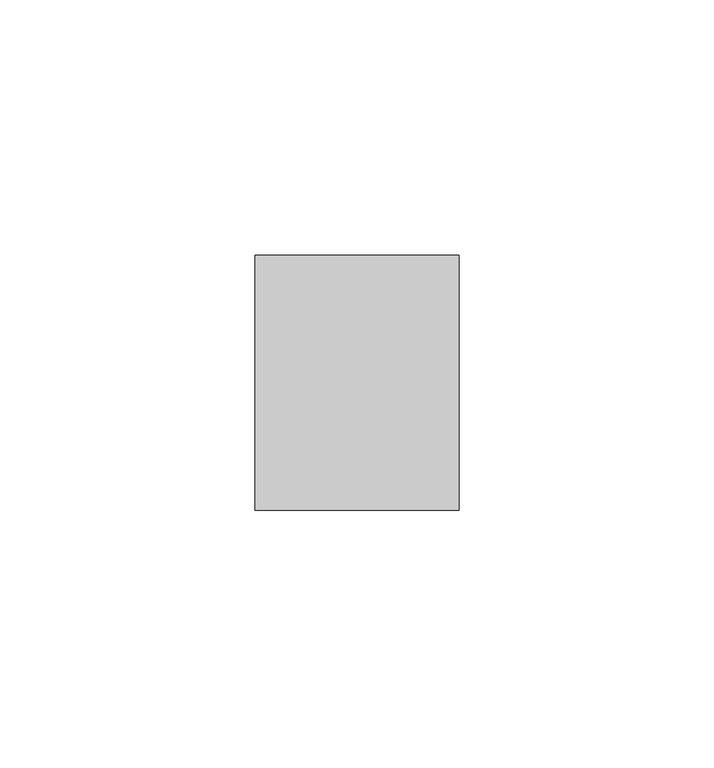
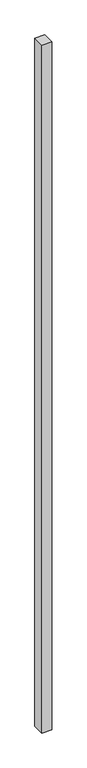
"""IFC4 building model written with IfcOpenShell, lengths in millimetres: member geometry, Прямоугольный импост : 40х50."""

from ifc_helpers import new_model, si_unit, frame, origin, place, context, project, spatial, polyline, outline, extrude, source, transform, mapped, element, save


def member_f79c86ad(model_context):
    return source(origin(), model_context, "Body", "SweptSolid", [
        extrude(outline(polyline([(20.0, 50.0), (20.0, 0.0), (-20.0, 0.0), (-20.0, 50.0), (20.0, 50.0)])), frame((0.0, 0.0, -3000.0), z_axis=(0.0, 0.0, 1.0), x_axis=(1.0, 0.0, 0.0)), (0.0, 0.0, 1.0), 3000.0),
    ])


if __name__ == "__main__":
    model = new_model("IFC4")
    model_context = context("Model", 3, world=origin())
    ifc_project = project(units=[si_unit("LENGTHUNIT", "METRE", prefix="MILLI")], contexts=[model_context])
    site = spatial("IfcSite", under=ifc_project)
    building = spatial("IfcBuilding", under=site)
    placement = place(None, origin())
    member_shape = member_f79c86ad(model_context)
    element("IfcMember", 1, ObjectType="Прямоугольный импост : 40х50", at=placement, inside=building, context=model_context, shape_type="MappedRepresentation", body=[
        mapped(member_shape, transform((0.0, 0.0, 0.0), x_axis=(1.0, 0.0, 0.0), y_axis=(0.0, 1.0, 0.0), z_axis=(0.0, 0.0, 1.0))),
    ])
    save(model, "model.ifc")
